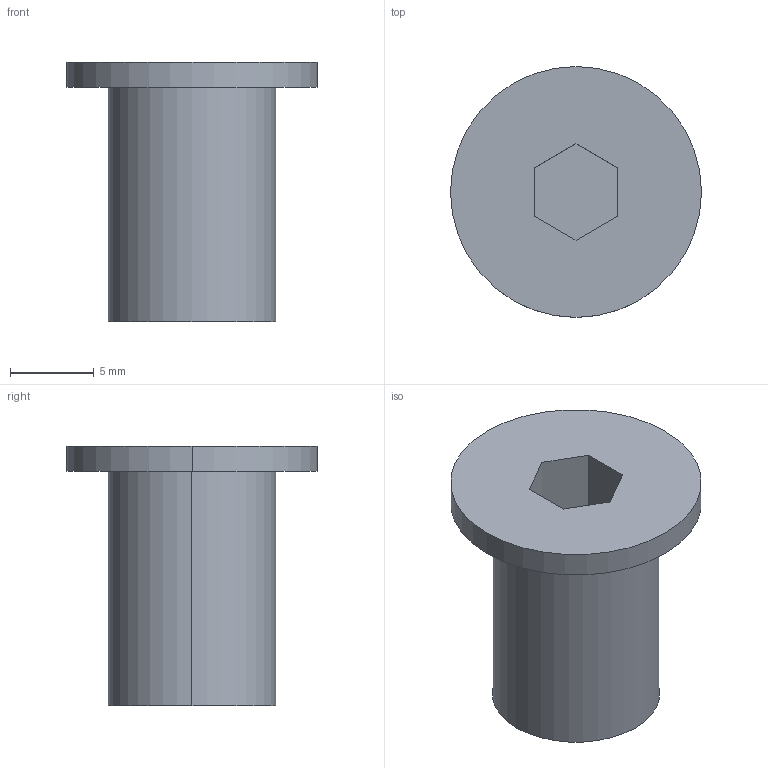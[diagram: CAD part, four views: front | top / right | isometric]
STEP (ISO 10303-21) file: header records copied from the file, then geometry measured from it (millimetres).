
FILE_DESCRIPTION (( 'STEP AP214' ), '1' );
FILE_NAME ('EXTRA_LOW_HEAD_CAP_BOLT_M10(2)(L=014).STEP', '2021-09-19T02:22:08', ( '' ), ( '' ), 'SwSTEP 2.0', 'SolidWorks 2018', '' );
FILE_SCHEMA (( 'AUTOMOTIVE_DESIGN' ));
Length unit declared in the file: millimetre
Products named in the file (1): EXTRA_LOW_HEAD_CAP_BOLT_M10(2)(L=014)
Bounding box: 15 x 15 x 15.5 mm (x, y, z)
Volume: 1234.7 mm3; surface area: 967.9 mm2
Topology: 1 solids, 1 shells, 14 faces, 30 edges, 20 vertices
Faces by surface type: plane 10, cylinder 4
Entity records: 416 total; most frequent: DIRECTION 68, CARTESIAN_POINT 65, ORIENTED_EDGE 60, EDGE_CURVE 30, AXIS2_PLACEMENT_3D 23, LINE 22, VECTOR 22, VERTEX_POINT 20
